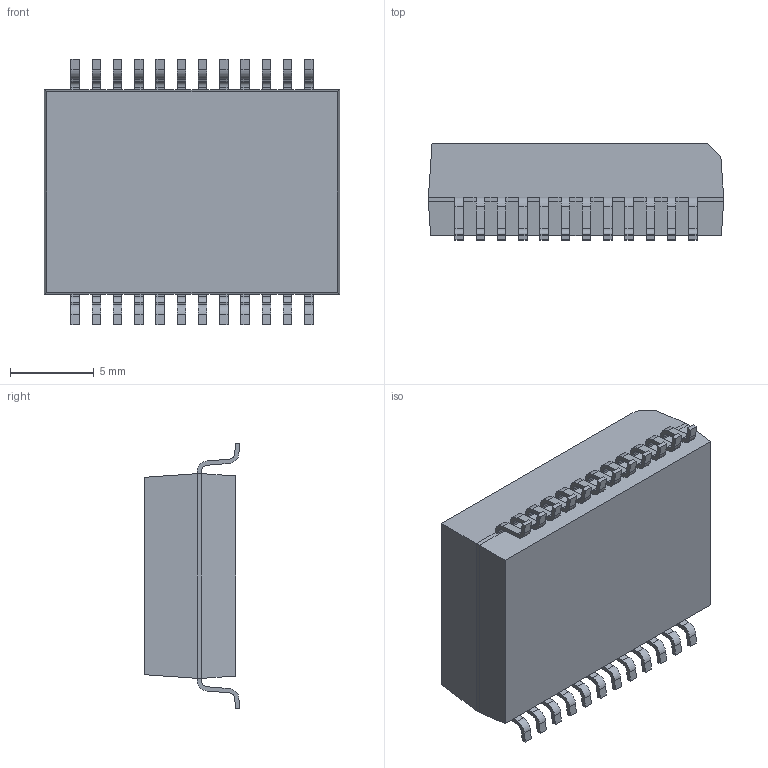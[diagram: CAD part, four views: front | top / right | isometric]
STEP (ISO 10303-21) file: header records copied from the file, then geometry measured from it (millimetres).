
FILE_DESCRIPTION (( 'STEP AP214' ), '1' );
FILE_NAME ('H5004NL_3D.STEP', '2017-09-17T08:48:13', ( '' ), ( '' ), 'SwSTEP 2.0', 'SolidWorks 2015', '' );
FILE_SCHEMA (( 'AUTOMOTIVE_DESIGN' ));
Length unit declared in the file: millimetre
Products named in the file (1): H5004NL_3D
Bounding box: 17.65 x 5.71 x 15.9 mm (x, y, z)
Volume: 1158 mm3; surface area: 857.4 mm2
Topology: 1 solids, 1 shells, 354 faces, 949 edges, 598 vertices
Faces by surface type: plane 256, cylinder 98
Entity records: 14805 total; most frequent: CARTESIAN_POINT 1902, ORIENTED_EDGE 1898, DIRECTION 1855, EDGE_CURVE 949, LINE 753, VECTOR 753, VERTEX_POINT 598, AXIS2_PLACEMENT_3D 551
